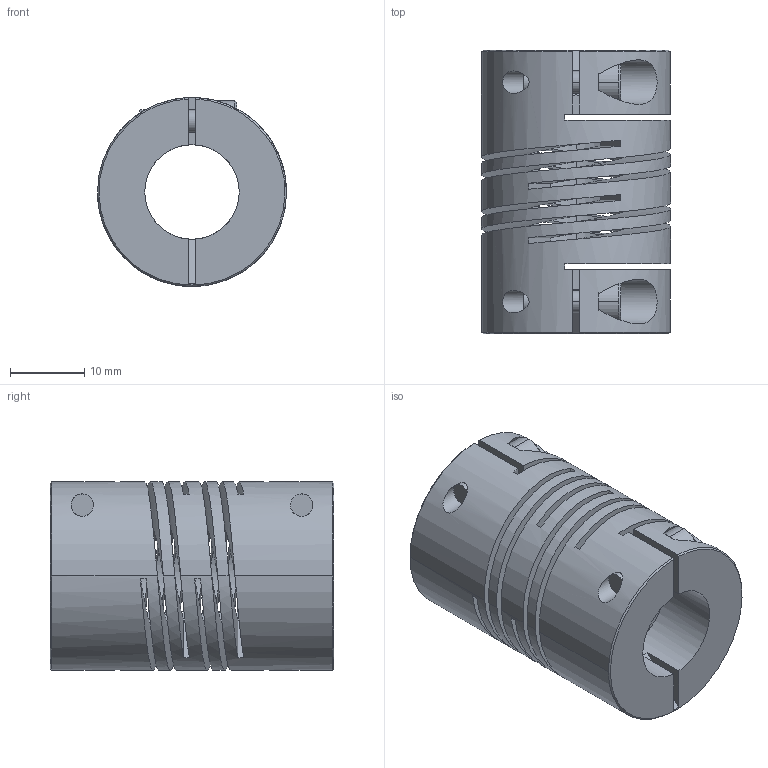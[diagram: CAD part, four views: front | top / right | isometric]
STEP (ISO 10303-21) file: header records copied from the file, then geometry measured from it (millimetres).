
FILE_DESCRIPTION((''),'2;1');
FILE_NAME('727_25','2006-12-05T',('Gary Melling'),(''),'PRO/ENGINEER BY PARAMETRIC TECHNOLOGY CORPORATION, 2006240','PRO/ENGINEER BY PARAMETRIC TECHNOLOGY CORPORATION, 2006240','');
FILE_SCHEMA(('CONFIG_CONTROL_DESIGN'));
Length unit declared in the file: millimetre
Products named in the file (1): 727_25
Bounding box: 25.4 x 38.1 x 25.4 mm (x, y, z)
Volume: 12071 mm3; surface area: 9802.1 mm2
Topology: 1 solids, 1 shells, 104 faces, 306 edges, 200 vertices
Faces by surface type: plane 56, cylinder 30, bspline 12, cone 6
Entity records: 5242 total; most frequent: CARTESIAN_POINT 2522, ORIENTED_EDGE 612, DIRECTION 480, EDGE_CURVE 306, VERTEX_POINT 200, VECTOR 172, LINE 172, AXIS2_PLACEMENT_3D 154
